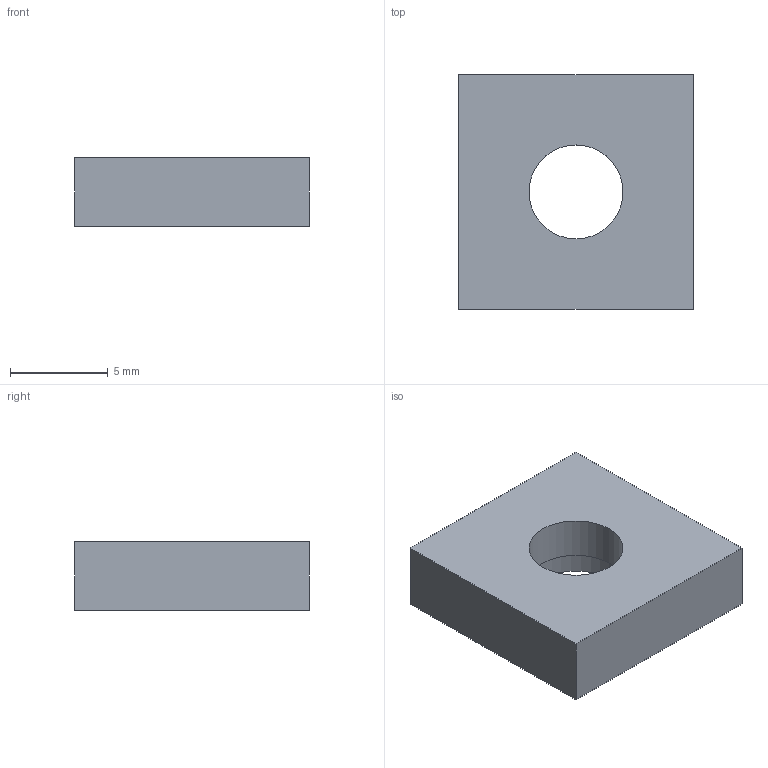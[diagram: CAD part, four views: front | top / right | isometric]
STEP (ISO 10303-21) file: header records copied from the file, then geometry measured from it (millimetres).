
FILE_DESCRIPTION(('Open CASCADE Model'),'2;1');
FILE_NAME('Open CASCADE Shape Model','2026-09-15T13:32:55',('Author'),( 'Open CASCADE'),'Open CASCADE STEP processor 7.7','Open CASCADE 7.7' ,'Unknown');
FILE_SCHEMA(('AUTOMOTIVE_DESIGN { 1 0 10303 214 1 1 1 1 }'));
Length unit declared in the file: millimetre
Products named in the file (1): QP04_LENS_FLANGE_D5.8
Bounding box: 12 x 12 x 3.5 mm (x, y, z)
Volume: 429.4 mm3; surface area: 476.8 mm2
Topology: 1 solids, 1 shells, 9 faces, 18 edges, 12 vertices
Faces by surface type: plane 7, cylinder 2
Full cylindrical faces by diameter (mm): 4.8 x1, 5.8 x1
Entity records: 484 total; most frequent: DIRECTION 78, CARTESIAN_POINT 76, LINE 46, VECTOR 46, ORIENTED_EDGE 36, PCURVE 36, DEFINITIONAL_REPRESENTATION 36, EDGE_CURVE 18
